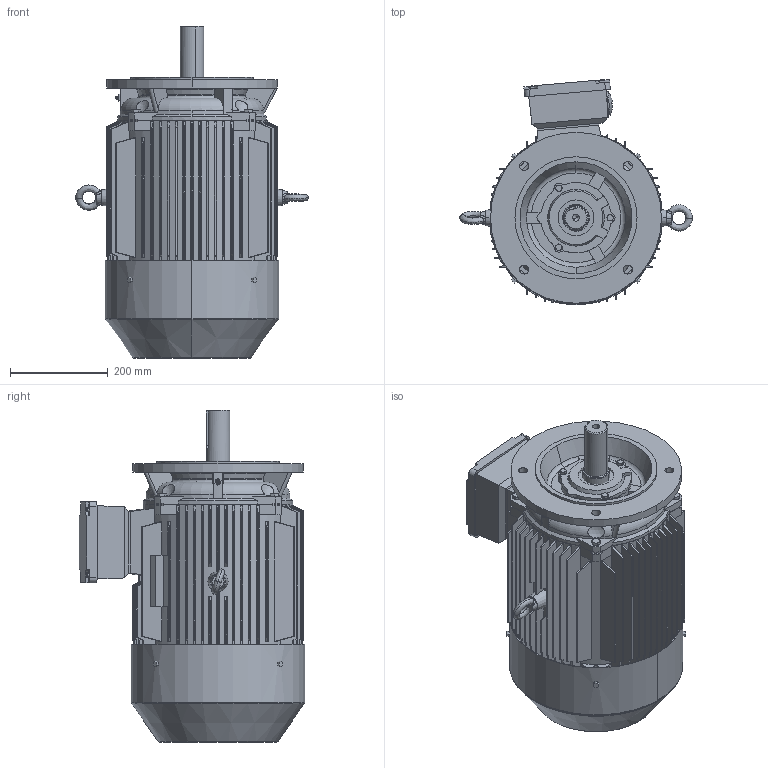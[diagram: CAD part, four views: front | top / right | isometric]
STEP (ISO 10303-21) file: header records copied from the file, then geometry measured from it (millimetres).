
FILE_DESCRIPTION (( 'STEP AP203' ), '1' );
FILE_NAME ('TE3-180M-4 V1 2018.STEP', '2019-11-19T03:20:53', ( '微软用户' ), ( '微软中国' ), 'SwSTEP 2.0', 'SolidWorks 2012', '' );
FILE_SCHEMA (( 'CONFIG_CONTROL_DESIGN' ));
Length unit declared in the file: millimetre
Products named in the file (14): TE3-180M-4 V1 2018; 蚐戚; hexagon head bolts gb_GB_FASTENER_BOLT_SB A M8X40-N; hexagon head bolts-full thread gb_GB_FASTENER_BOLT_STBAB A M10X20-N; 5EJ.354.484GX160~180P24諉盄碟; hexagon head bolts-full thread gb_GB_FASTENER_BOLT_STBAB A M6X12-N; 8EJ.353.10053GX160~180P24諉盄碟裔; 8EJ.354.593Y2-160~180P24諉盄碟釱; eyebolts gb_GB_FASTENER_SCREWS_FRS M12-N; YX3-180 粣ㄗ粣扥ㄘ; YX3-180-4,6,8粣創俋裔; YX3-180 瑞欶; Y2-180-4,6,8芧埽傷裔017.00089; Y2-180M B5奻 儂釱
Assembly tree (22 placements, depth 3):
  TE3-180M-4 V1 2018
    Y2-180M B5奻 儂釱
    Y2-180-4,6,8芧埽傷裔017.00089
    YX3-180 瑞欶
    YX3-180-4,6,8粣創俋裔
    YX3-180 粣ㄗ粣扥ㄘ
    eyebolts gb_GB_FASTENER_SCREWS_FRS M12-N  x2
    5EJ.354.484GX160~180P24諉盄碟
      8EJ.354.593Y2-160~180P24諉盄碟釱
      8EJ.353.10053GX160~180P24諉盄碟裔
      hexagon head bolts-full thread gb_GB_FASTENER_BOLT_STBAB A M6X12-N  x4
    hexagon head bolts-full thread gb_GB_FASTENER_BOLT_STBAB A M10X20-N  x4
    hexagon head bolts gb_GB_FASTENER_BOLT_SB A M8X40-N  x3
    蚐戚
Bounding box: 476.2 x 461.54 x 680 mm (x, y, z)
Volume: 32961679 mm3; surface area: 2443841.9 mm2
Topology: 22 solids, 23 shells, 3197 faces, 8347 edges, 5488 vertices
Faces by surface type: plane 1564, cylinder 1185, cone 328, torus 72, bspline 40, sphere 8
Entity records: 99891 total; most frequent: CARTESIAN_POINT 24167, ORIENTED_EDGE 15504, DIRECTION 15467, EDGE_CURVE 7752, AXIS2_PLACEMENT_3D 5527, VERTEX_POINT 5124, VECTOR 4413, LINE 4413
